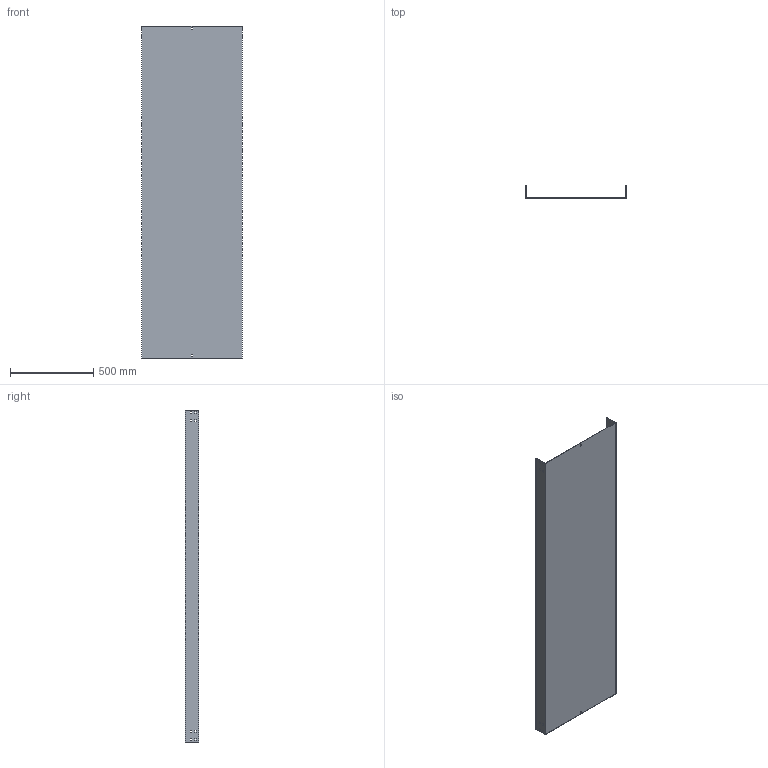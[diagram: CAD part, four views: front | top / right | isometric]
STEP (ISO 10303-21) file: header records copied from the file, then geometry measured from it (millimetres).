
FILE_DESCRIPTION (( 'STEP AP214' ), '1' );
FILE_NAME ('03F2C600.step', '2025-02-21T13:32:04', ( '' ), ( '' ), 'SwSTEP 2.0', 'SolidWorks 2023', '' );
FILE_SCHEMA (( 'AUTOMOTIVE_DESIGN' ));
Length unit declared in the file: millimetre
Products named in the file (1): 03F2C600
Bounding box: 604 x 79 x 2000 mm (x, y, z)
Volume: 5280670.5 mm3; surface area: 3038932 mm2
Topology: 1 solids, 1 shells, 82 faces, 240 edges, 160 vertices
Faces by surface type: plane 82
Entity records: 2759 total; most frequent: CARTESIAN_POINT 483, ORIENTED_EDGE 480, DIRECTION 406, VECTOR 240, EDGE_CURVE 240, LINE 240, VERTEX_POINT 160, EDGE_LOOP 118
